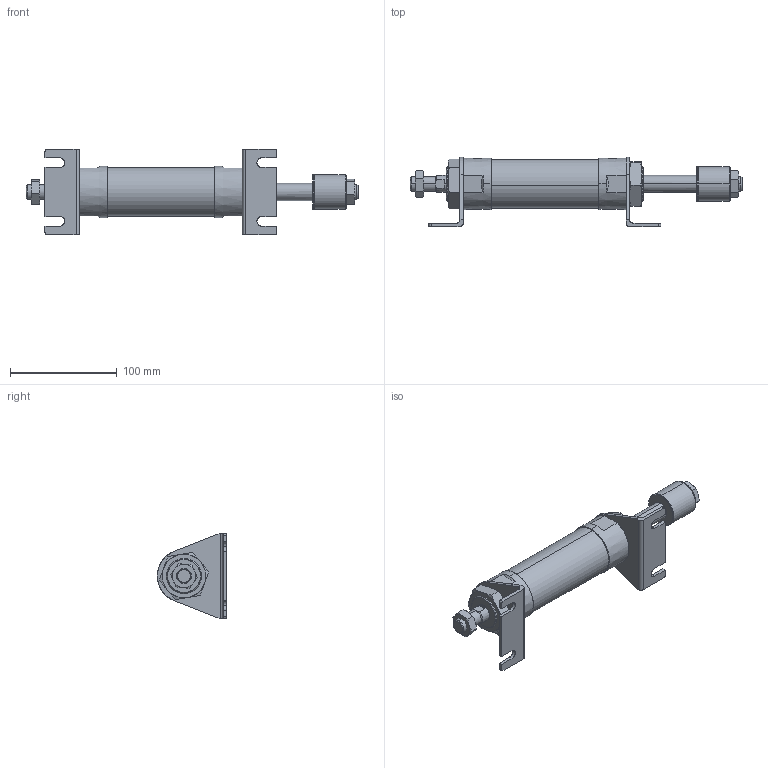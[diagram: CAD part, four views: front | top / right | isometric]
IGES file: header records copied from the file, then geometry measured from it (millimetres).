
Start section: SolidWorks IGES file using analytic representation for surfaces
Global section: file name: C:\Users\Toshiba\Desktop\JGA7-40-50-L.IGS; native system: SolidWorks 2014; preprocessor: SolidWorks 2014; author: Toshiba; date: 160420.095857; units: millimetre
Bounding box: 311.5 x 65 x 80 mm (x, y, z)
Surface area: 82380.2 mm2 (no closed solid volume)
Topology: 0 solids, 0 shells, 225 faces, 4204 edges, 4200 vertices
Faces by surface type: bspline 139, revolution 86
